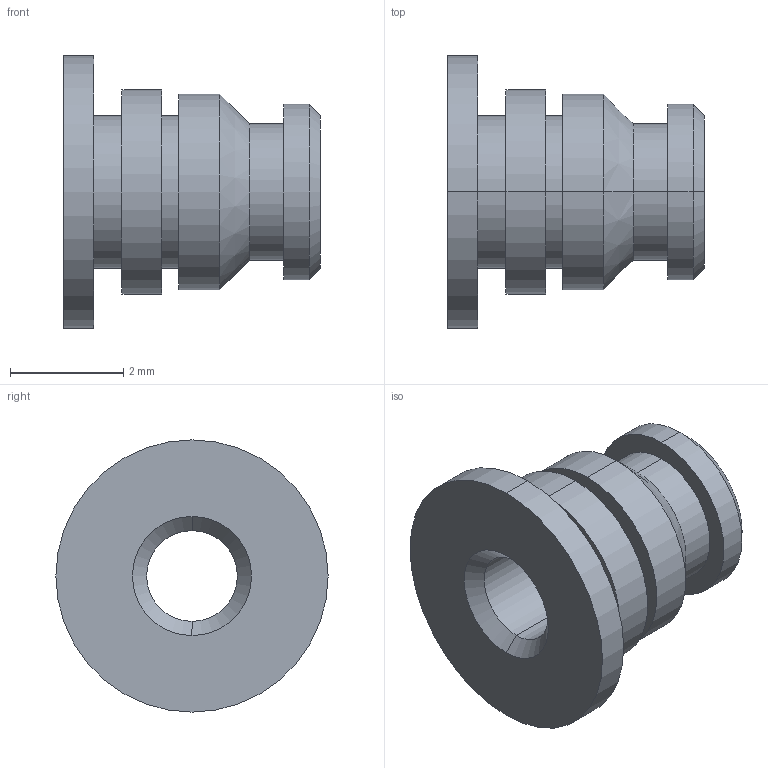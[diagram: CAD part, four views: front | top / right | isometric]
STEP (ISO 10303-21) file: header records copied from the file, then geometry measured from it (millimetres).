
FILE_DESCRIPTION (( 'STEP AP203' ), '1' );
FILE_NAME ('FSUK-HISH-M02-S.STEP', '2021-04-15T08:52:56', ( '' ), ( '' ), 'SwSTEP 2.0', 'SolidWorks 2021', '' );
FILE_SCHEMA (( 'CONFIG_CONTROL_DESIGN' ));
Length unit declared in the file: millimetre
Products named in the file (1): FSUK-HISH-M02-S
Bounding box: 4.53 x 4.8 x 4.8 mm (x, y, z)
Volume: 29.6 mm3; surface area: 118 mm2
Topology: 1 solids, 1 shells, 31 faces, 62 edges, 38 vertices
Faces by surface type: cylinder 16, cone 8, plane 7
Entity records: 895 total; most frequent: DIRECTION 164, CARTESIAN_POINT 132, ORIENTED_EDGE 124, AXIS2_PLACEMENT_3D 70, EDGE_CURVE 62, VERTEX_POINT 38, EDGE_LOOP 38, CIRCLE 38
